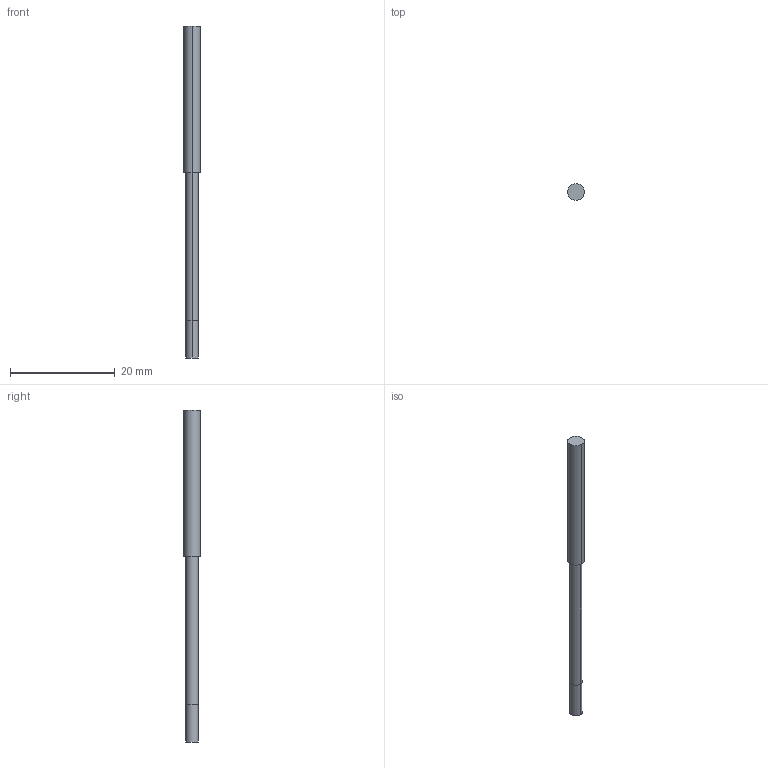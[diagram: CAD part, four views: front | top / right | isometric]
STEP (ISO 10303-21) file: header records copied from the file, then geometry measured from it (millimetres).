
FILE_DESCRIPTION((' '),'2;1');
FILE_NAME( '3MVS0938N15AH.stp', '2026-01-21T19:09:25', (' '), ('--- Datakit www.datakit.com---'), ' Datakit CrossCadWare V2025.4 Sep 19 2025', 'Mastercam 2027', ' ');
FILE_SCHEMA(('AUTOMOTIVE_DESIGN { 1 0 10303 214 1 1 1 1 }'));
Length unit declared in the file: inch
Products named in the file (1): 3MVS0938N15AH
Bounding box: 3.17 x 3.17 x 63.5 mm (x, y, z)
Volume: 379.7 mm3; surface area: 560.7 mm2
Topology: 1 solids, 1 shells, 9 faces, 16 edges, 10 vertices
Faces by surface type: cylinder 6, plane 3
Entity records: 302 total; most frequent: DIRECTION 54, CARTESIAN_POINT 40, ORIENTED_EDGE 32, AXIS2_PLACEMENT_3D 24, EDGE_CURVE 16, VERTEX_POINT 10, CIRCLE 10, EDGE_LOOP 10
